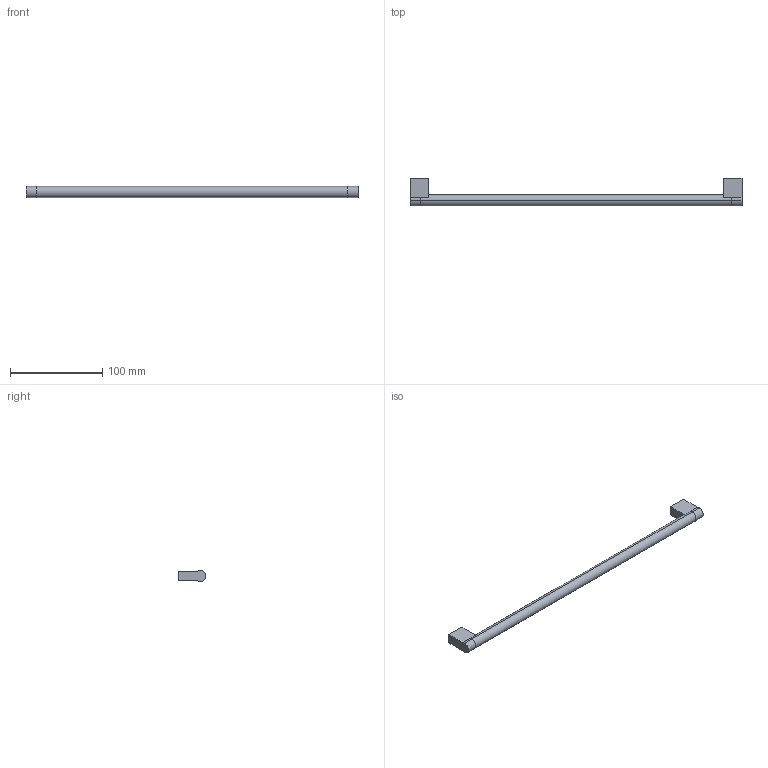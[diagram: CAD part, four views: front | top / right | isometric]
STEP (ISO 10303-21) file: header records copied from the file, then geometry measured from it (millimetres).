
FILE_DESCRIPTION( ( '' ), '1' );
FILE_NAME( 'C:/Documents and Settings/Sachin/Desktop/Sheet 10_1/stp/ 9069959.stp', '2013-10-22T10:02:01', ( '' ), ( '' ), ' ', ' ', ' ' );
FILE_SCHEMA( ( 'CONFIG_CONTROL_DESIGN' ) );
Length unit declared in the file: millimetre
Products named in the file (1): 1
Bounding box: 360 x 30 x 12 mm (x, y, z)
Volume: 48587 mm3; surface area: 16925.5 mm2
Topology: 1 solids, 1 shells, 30 faces, 70 edges, 44 vertices
Faces by surface type: plane 16, cylinder 14
Entity records: 906 total; most frequent: DIRECTION 164, CARTESIAN_POINT 145, ORIENTED_EDGE 140, EDGE_CURVE 70, AXIS2_PLACEMENT_3D 63, VERTEX_POINT 44, LINE 38, VECTOR 38
